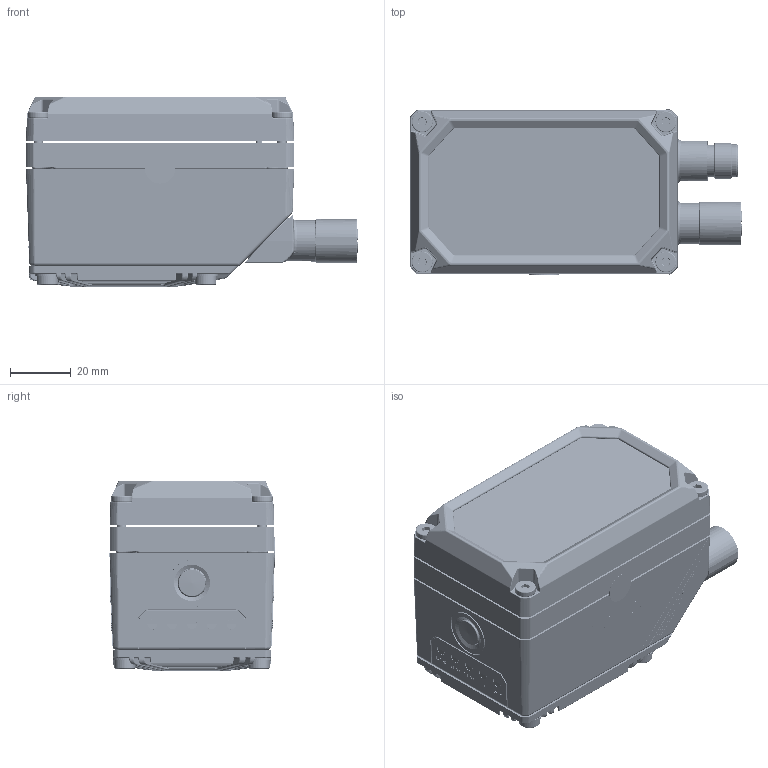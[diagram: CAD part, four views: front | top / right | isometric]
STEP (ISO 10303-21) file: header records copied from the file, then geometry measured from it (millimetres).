
FILE_DESCRIPTION(/* description */ (''),/* implementation_level */ '2;1');
FILE_NAME(/* name */ 'P2x-0°-DSD-1048.stp',/* time_stamp */ '2021-02-15T10:17:04+01:00',/* author */ (''),/* organization */ (''),/* preprocessor_version */ 'ST-DEVELOPER v16.7',/* originating_system */ 'SIEMENS PLM Software NX 12.0',/* authorisation */ '');
FILE_SCHEMA (('AUTOMOTIVE_DESIGN { 1 0 10303 214 3 1 1 1 }'));
Products named in the file (1): MGia2A940324k8pe
Bounding box: 108.95 x 54.22 x 62.5 mm (x, y, z)
Volume: 90604 mm3; surface area: 90819.2 mm2
Topology: 198 solids, 198 shells, 5959 faces, 14049 edges, 8516 vertices
Faces by surface type: plane 2320, cylinder 1629, bspline 684, cone 541, torus 327, extrusion 325, sphere 133
Full cylindrical faces by diameter (mm): 0.6 x34, 1.25 x4, 1.6 x6, 1.75 x3, 1.8 x2, 2.5 x20, 2.7 x3, 2.9 x7, 3 x4, 3.2 x12, 3.3 x9, 3.37 x4, 3.5 x5, 3.85 x2, 3.95 x4, 4 x1, 4.3 x4, 4.4 x4, 4.5 x4, 4.9 x1, 5 x2, 5.3 x1, 5.4 x8, 6.2 x4, 6.8 x1, 6.9 x4, 7 x4, 8 x4, 8.75 x1, 8.8 x1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
Entity records: 203399 total; most frequent: CARTESIAN_POINT 65917, ORIENTED_EDGE 26676, DIRECTION 26130, EDGE_CURVE 13338, AXIS2_PLACEMENT_3D 10033, VERTEX_POINT 8391, EDGE_LOOP 6721, VECTOR 6064
